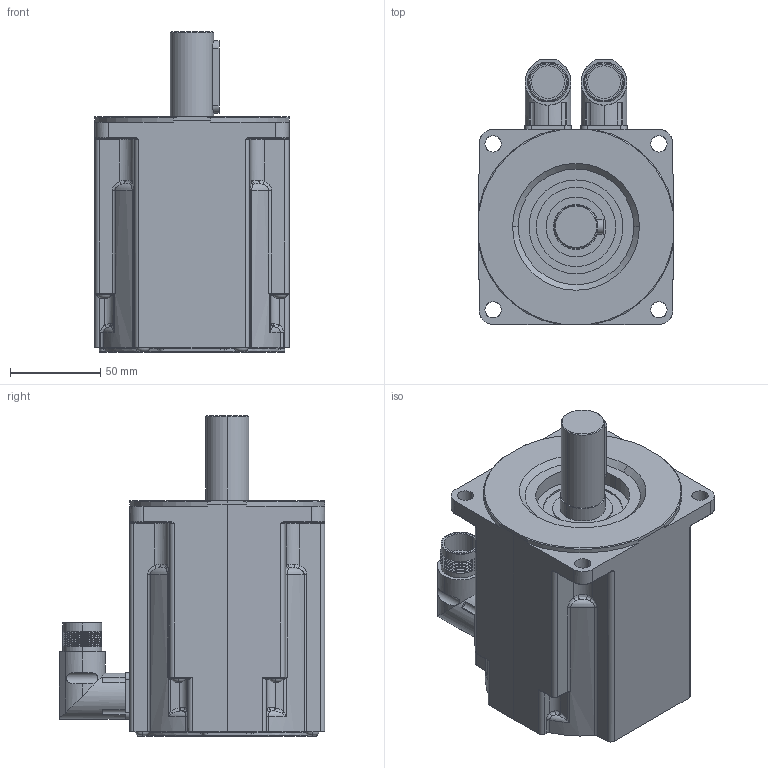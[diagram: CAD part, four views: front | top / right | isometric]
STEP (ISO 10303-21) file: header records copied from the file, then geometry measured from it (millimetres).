
FILE_DESCRIPTION (( 'STEP AP214' ), '1' );
FILE_NAME ('MR7751-Ux-Nxx-G01-A0D-MS-P0.stp', '2009-04-08T13:46:00', ( 'SysAdmin' ), ( 'SolidWorks' ), 'SwSTEP 2.0', 'SolidWorks 2009', '' );
FILE_SCHEMA (( 'AUTOMOTIVE_DESIGN' ));
Length unit declared in the file: millimetre
Products named in the file (1): MR7751-Ux-Nxx-G01-A0D-MS-P0
Bounding box: 108 x 147 x 177.5 mm (x, y, z)
Volume: 1351613.5 mm3; surface area: 94004.8 mm2
Topology: 1 solids, 1 shells, 606 faces, 1481 edges, 882 vertices
Faces by surface type: cylinder 178, bspline 136, plane 132, cone 108, torus 52
Entity records: 28134 total; most frequent: CARTESIAN_POINT 8902, ORIENTED_EDGE 2922, DIRECTION 2541, EDGE_CURVE 1461, AXIS2_PLACEMENT_3D 1077, VERTEX_POINT 882, EDGE_LOOP 639, FACE_OUTER_BOUND 606
